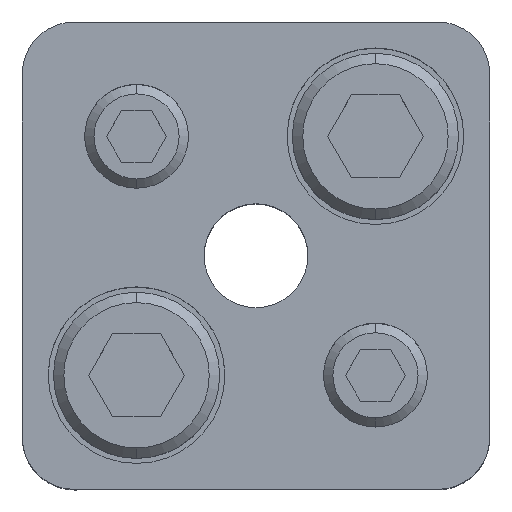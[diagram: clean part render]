
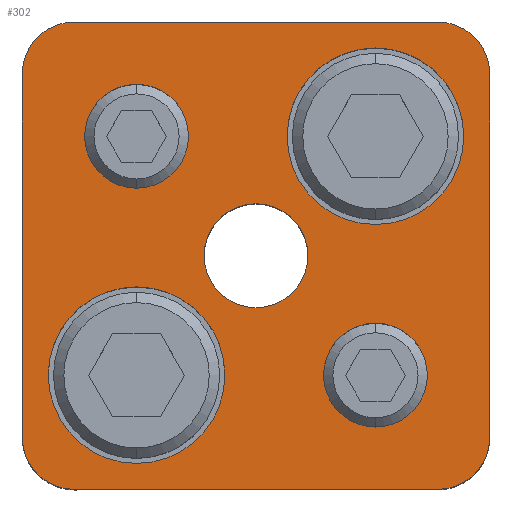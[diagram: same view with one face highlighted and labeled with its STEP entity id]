
A CAD part, top view. The second image highlights one B-rep face of the part: STEP entity #302.
In plain terms, the highlighted planar face has unit normal (0, 0, 1).
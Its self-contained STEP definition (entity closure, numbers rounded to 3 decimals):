
#161=PLANE('',#2460);
#224=FACE_BOUND('',#627,.T.);
#225=FACE_BOUND('',#628,.T.);
#226=FACE_BOUND('',#629,.T.);
#227=FACE_BOUND('',#630,.T.);
#228=FACE_BOUND('',#631,.T.);
#229=FACE_BOUND('',#632,.T.);
#302=ADVANCED_FACE('',(#224,#225,#226,#227,#228,#229),#161,.T.);
#627=EDGE_LOOP('',(#1277,#1278,#1279,#1280,#1281,#1282,#1283,#1284));
#628=EDGE_LOOP('',(#1285,#1286));
#629=EDGE_LOOP('',(#1287,#1288));
#630=EDGE_LOOP('',(#1289,#1290));
#631=EDGE_LOOP('',(#1291,#1292));
#632=EDGE_LOOP('',(#1293,#1294));
#779=LINE('',#3601,#949);
#780=LINE('',#3605,#950);
#781=LINE('',#3609,#951);
#782=LINE('',#3613,#952);
#949=VECTOR('',#2877,1.);
#950=VECTOR('',#2880,1.);
#951=VECTOR('',#2883,1.);
#952=VECTOR('',#2886,1.);
#1277=ORIENTED_EDGE('',*,*,#2005,.T.);
#1278=ORIENTED_EDGE('',*,*,#2006,.T.);
#1279=ORIENTED_EDGE('',*,*,#2007,.T.);
#1280=ORIENTED_EDGE('',*,*,#2008,.T.);
#1281=ORIENTED_EDGE('',*,*,#2009,.T.);
#1282=ORIENTED_EDGE('',*,*,#2010,.T.);
#1283=ORIENTED_EDGE('',*,*,#2011,.T.);
#1284=ORIENTED_EDGE('',*,*,#2012,.T.);
#1285=ORIENTED_EDGE('',*,*,#2013,.F.);
#1286=ORIENTED_EDGE('',*,*,#2014,.F.);
#1287=ORIENTED_EDGE('',*,*,#2015,.F.);
#1288=ORIENTED_EDGE('',*,*,#2016,.F.);
#1289=ORIENTED_EDGE('',*,*,#1991,.F.);
#1290=ORIENTED_EDGE('',*,*,#1987,.F.);
#1291=ORIENTED_EDGE('',*,*,#1985,.F.);
#1292=ORIENTED_EDGE('',*,*,#1981,.F.);
#1293=ORIENTED_EDGE('',*,*,#2017,.T.);
#1294=ORIENTED_EDGE('',*,*,#2018,.T.);
#1755=VERTEX_POINT('',#3549);
#1756=VERTEX_POINT('',#3550);
#1759=VERTEX_POINT('',#3562);
#1760=VERTEX_POINT('',#3563);
#1771=VERTEX_POINT('',#3599);
#1772=VERTEX_POINT('',#3600);
#1773=VERTEX_POINT('',#3602);
#1774=VERTEX_POINT('',#3604);
#1775=VERTEX_POINT('',#3606);
#1776=VERTEX_POINT('',#3608);
#1777=VERTEX_POINT('',#3610);
#1778=VERTEX_POINT('',#3612);
#1779=VERTEX_POINT('',#3615);
#1780=VERTEX_POINT('',#3616);
#1781=VERTEX_POINT('',#3619);
#1782=VERTEX_POINT('',#3620);
#1783=VERTEX_POINT('',#3623);
#1784=VERTEX_POINT('',#3624);
#1981=EDGE_CURVE('',#1755,#1756,#2255,.T.);
#1985=EDGE_CURVE('',#1756,#1755,#2257,.T.);
#1987=EDGE_CURVE('',#1759,#1760,#2259,.T.);
#1991=EDGE_CURVE('',#1760,#1759,#2261,.T.);
#2005=EDGE_CURVE('',#1771,#1772,#2271,.T.);
#2006=EDGE_CURVE('',#1772,#1773,#779,.T.);
#2007=EDGE_CURVE('',#1773,#1774,#2272,.T.);
#2008=EDGE_CURVE('',#1774,#1775,#780,.T.);
#2009=EDGE_CURVE('',#1775,#1776,#2273,.T.);
#2010=EDGE_CURVE('',#1776,#1777,#781,.T.);
#2011=EDGE_CURVE('',#1777,#1778,#2274,.T.);
#2012=EDGE_CURVE('',#1778,#1771,#782,.T.);
#2013=EDGE_CURVE('',#1779,#1780,#2275,.T.);
#2014=EDGE_CURVE('',#1780,#1779,#2276,.T.);
#2015=EDGE_CURVE('',#1781,#1782,#2277,.T.);
#2016=EDGE_CURVE('',#1782,#1781,#2278,.T.);
#2017=EDGE_CURVE('',#1783,#1784,#2279,.T.);
#2018=EDGE_CURVE('',#1784,#1783,#2280,.T.);
#2255=CIRCLE('',#2424,5.);
#2257=CIRCLE('',#2427,5.);
#2259=CIRCLE('',#2431,5.);
#2261=CIRCLE('',#2434,5.);
#2271=CIRCLE('',#2450,5.);
#2272=CIRCLE('',#2451,5.);
#2273=CIRCLE('',#2452,5.);
#2274=CIRCLE('',#2453,5.);
#2275=CIRCLE('',#2454,8.5);
#2276=CIRCLE('',#2455,8.5);
#2277=CIRCLE('',#2456,8.5);
#2278=CIRCLE('',#2457,8.5);
#2279=CIRCLE('',#2458,5.);
#2280=CIRCLE('',#2459,5.);
#2424=AXIS2_PLACEMENT_3D('',#3548,#2815,#2816);
#2427=AXIS2_PLACEMENT_3D('',#3557,#2823,#2824);
#2431=AXIS2_PLACEMENT_3D('',#3561,#2831,#2832);
#2434=AXIS2_PLACEMENT_3D('',#3570,#2839,#2840);
#2450=AXIS2_PLACEMENT_3D('',#3598,#2875,#2876);
#2451=AXIS2_PLACEMENT_3D('',#3603,#2878,#2879);
#2452=AXIS2_PLACEMENT_3D('',#3607,#2881,#2882);
#2453=AXIS2_PLACEMENT_3D('',#3611,#2884,#2885);
#2454=AXIS2_PLACEMENT_3D('',#3614,#2887,#2888);
#2455=AXIS2_PLACEMENT_3D('',#3617,#2889,#2890);
#2456=AXIS2_PLACEMENT_3D('',#3618,#2891,#2892);
#2457=AXIS2_PLACEMENT_3D('',#3621,#2893,#2894);
#2458=AXIS2_PLACEMENT_3D('',#3622,#2895,#2896);
#2459=AXIS2_PLACEMENT_3D('',#3625,#2897,#2898);
#2460=AXIS2_PLACEMENT_3D('',#3626,#2899,#2900);
#2815=DIRECTION('',(0.,0.,1.));
#2816=DIRECTION('',(-1.,0.,0.));
#2823=DIRECTION('',(0.,0.,1.));
#2824=DIRECTION('',(1.,0.,0.));
#2831=DIRECTION('',(0.,0.,1.));
#2832=DIRECTION('',(-1.,0.,0.));
#2839=DIRECTION('',(0.,0.,1.));
#2840=DIRECTION('',(1.,0.,0.));
#2875=DIRECTION('',(0.,0.,1.));
#2876=DIRECTION('',(-0.707,0.707,0.));
#2877=DIRECTION('',(0.,1.,0.));
#2878=DIRECTION('',(0.,0.,1.));
#2879=DIRECTION('',(-0.707,-0.707,0.));
#2880=DIRECTION('',(-1.,0.,0.));
#2881=DIRECTION('',(0.,0.,1.));
#2882=DIRECTION('',(0.707,-0.707,0.));
#2883=DIRECTION('',(0.,-1.,0.));
#2884=DIRECTION('',(0.,0.,1.));
#2885=DIRECTION('',(0.707,0.707,0.));
#2886=DIRECTION('',(1.,0.,0.));
#2887=DIRECTION('',(0.,0.,1.));
#2888=DIRECTION('',(1.,0.,0.));
#2889=DIRECTION('',(0.,0.,1.));
#2890=DIRECTION('',(-1.,0.,0.));
#2891=DIRECTION('',(0.,0.,1.));
#2892=DIRECTION('',(1.,0.,0.));
#2893=DIRECTION('',(0.,0.,1.));
#2894=DIRECTION('',(-1.,0.,0.));
#2895=DIRECTION('',(0.,0.,-1.));
#2896=DIRECTION('',(-1.,0.,0.));
#2897=DIRECTION('',(0.,0.,-1.));
#2898=DIRECTION('',(1.,0.,0.));
#2899=DIRECTION('',(0.,0.,1.));
#2900=DIRECTION('',(-1.,0.,0.));
#3548=CARTESIAN_POINT('',(11.5,-11.5,35.));
#3549=CARTESIAN_POINT('',(11.5,-16.5,35.));
#3550=CARTESIAN_POINT('',(11.5,-6.5,35.));
#3557=CARTESIAN_POINT('',(11.5,-11.5,35.));
#3561=CARTESIAN_POINT('',(-11.5,11.5,35.));
#3562=CARTESIAN_POINT('',(-11.5,6.5,35.));
#3563=CARTESIAN_POINT('',(-11.5,16.5,35.));
#3570=CARTESIAN_POINT('',(-11.5,11.5,35.));
#3598=CARTESIAN_POINT('',(17.5,-17.5,35.));
#3599=CARTESIAN_POINT('',(17.5,-22.5,35.));
#3600=CARTESIAN_POINT('',(22.5,-17.5,35.));
#3601=CARTESIAN_POINT('',(22.5,17.5,35.));
#3602=CARTESIAN_POINT('',(22.5,17.5,35.));
#3603=CARTESIAN_POINT('',(17.5,17.5,35.));
#3604=CARTESIAN_POINT('',(17.5,22.5,35.));
#3605=CARTESIAN_POINT('',(-17.5,22.5,35.));
#3606=CARTESIAN_POINT('',(-17.5,22.5,35.));
#3607=CARTESIAN_POINT('',(-17.5,17.5,35.));
#3608=CARTESIAN_POINT('',(-22.5,17.5,35.));
#3609=CARTESIAN_POINT('',(-22.5,17.5,35.));
#3610=CARTESIAN_POINT('',(-22.5,-17.5,35.));
#3611=CARTESIAN_POINT('',(-17.5,-17.5,35.));
#3612=CARTESIAN_POINT('',(-17.5,-22.5,35.));
#3613=CARTESIAN_POINT('',(-17.5,-22.5,35.));
#3614=CARTESIAN_POINT('',(11.5,11.5,35.));
#3615=CARTESIAN_POINT('',(11.5,20.,35.));
#3616=CARTESIAN_POINT('',(11.5,3.,35.));
#3617=CARTESIAN_POINT('',(11.5,11.5,35.));
#3618=CARTESIAN_POINT('',(-11.5,-11.5,35.));
#3619=CARTESIAN_POINT('',(-11.5,-3.,35.));
#3620=CARTESIAN_POINT('',(-11.5,-20.,35.));
#3621=CARTESIAN_POINT('',(-11.5,-11.5,35.));
#3622=CARTESIAN_POINT('',(0.,0.,35.));
#3623=CARTESIAN_POINT('',(0.,5.,35.));
#3624=CARTESIAN_POINT('',(0.,-5.,35.));
#3625=CARTESIAN_POINT('',(0.,0.,35.));
#3626=CARTESIAN_POINT('',(17.5,-22.5,35.));
